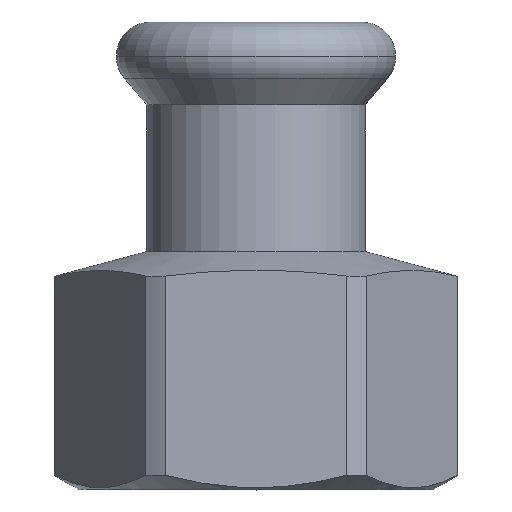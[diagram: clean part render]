
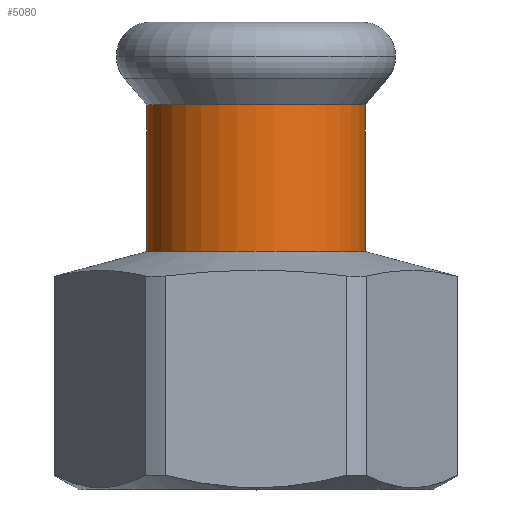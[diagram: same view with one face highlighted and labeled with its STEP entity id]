
A CAD part, top view. The second image highlights one B-rep face of the part: STEP entity #5080.
In plain terms, the highlighted cylindrical face has radius 9.125 mm (diameter 18.25 mm), a partial arc.
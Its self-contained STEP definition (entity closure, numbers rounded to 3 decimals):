
#4430=CARTESIAN_POINT('',(-87.068,54.512,0.));
#4440=VERTEX_POINT('',#4430);
#4620=CARTESIAN_POINT('',(-105.318,54.512,
0.));
#4630=VERTEX_POINT('',#4620);
#4660=CARTESIAN_POINT('',(-96.193,54.512,0.));
#4670=DIRECTION('',(0.,1.,0.));
#4680=DIRECTION('',(-1.,0.,0.));
#4690=AXIS2_PLACEMENT_3D('',#4660,#4670,#4680);
#4700=CIRCLE('',#4690,9.125);
#4760=CARTESIAN_POINT('',(-96.193,47.688,0.));
#4770=DIRECTION('',(0.,-1.,0.));
#4780=DIRECTION('',(-1.,0.,0.));
#4790=AXIS2_PLACEMENT_3D('',#4760,#4770,#4780);
#4800=CYLINDRICAL_SURFACE('',#4790,9.125);
#4810=CARTESIAN_POINT('',(-105.318,47.688,0.));
#4820=DIRECTION('',(0.,-1.,0.));
#4830=VECTOR('',#4820,1.);
#4840=LINE('',#4810,#4830);
#4850=CARTESIAN_POINT('',(-105.318,42.264,0.));
#4860=VERTEX_POINT('',#4850);
#4870=EDGE_CURVE('',#4630,#4860,#4840,.T.);
#4880=ORIENTED_EDGE('',*,*,#4870,.T.);
#4890=EDGE_CURVE('',#4630,#4440,#4700,.T.);
#4900=ORIENTED_EDGE('',*,*,#4890,.F.);
#4910=CARTESIAN_POINT('',(-87.068,47.688,
0.));
#4920=DIRECTION('',(0.,-1.,0.));
#4930=VECTOR('',#4920,1.);
#4940=LINE('',#4910,#4930);
#4950=CARTESIAN_POINT('',(-87.068,42.264,
0.));
#4960=VERTEX_POINT('',#4950);
#4970=EDGE_CURVE('',#4440,#4960,#4940,.T.);
#4980=ORIENTED_EDGE('',*,*,#4970,.F.);
#4990=CARTESIAN_POINT('',(-96.193,42.264,0.));
#5000=DIRECTION('',(0.,-1.,0.));
#5010=DIRECTION('',(-1.,0.,0.));
#5020=AXIS2_PLACEMENT_3D('',#4990,#5000,#5010);
#5030=CIRCLE('',#5020,9.125);
#5040=EDGE_CURVE('',#4960,#4860,#5030,.T.);
#5050=ORIENTED_EDGE('',*,*,#5040,.F.);
#5060=EDGE_LOOP('',(#5050,#4980,#4900,#4880));
#5070=FACE_OUTER_BOUND('',#5060,.T.);
#5080=ADVANCED_FACE('',(#5070),#4800,.T.);
